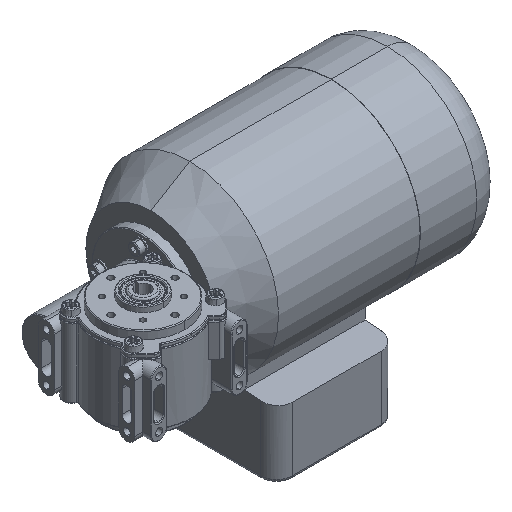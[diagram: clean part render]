
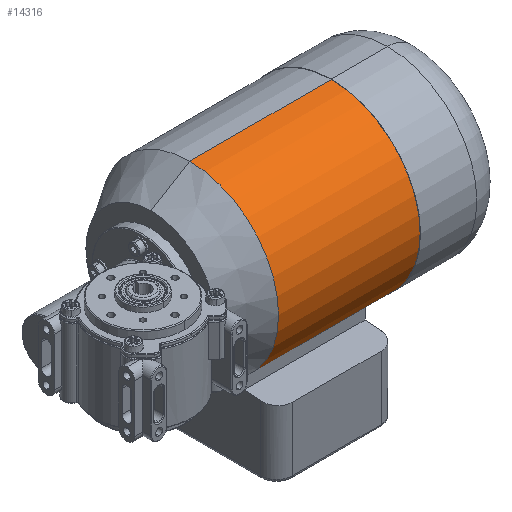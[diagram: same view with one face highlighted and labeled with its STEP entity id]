
A CAD part, isometric view. The second image highlights one B-rep face of the part: STEP entity #14316.
In plain terms, the highlighted cylindrical face has radius 55.25 mm (diameter 110.5 mm), a partial arc.
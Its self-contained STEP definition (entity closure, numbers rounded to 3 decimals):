
#313 = ORIENTED_EDGE ( 'NONE', *, *, #22561, .F. ) ;
#1379 = VECTOR ( 'NONE', #6438, 1000. ) ;
#1397 = LINE ( 'NONE', #16530, #3265 ) ;
#1657 = DIRECTION ( 'NONE',  ( 1., 0., 0. ) ) ;
#1877 = CIRCLE ( 'NONE', #22868, 55.25 ) ;
#2091 = CARTESIAN_POINT ( 'NONE',  ( 102.806, 5.807, -45.734 ) ) ;
#2735 = DIRECTION ( 'NONE',  ( 0., 0., 1. ) ) ;
#2875 = CARTESIAN_POINT ( 'NONE',  ( 59.834, 36.807, 0. ) ) ;
#3171 = CYLINDRICAL_SURFACE ( 'NONE', #23418, 55.25 ) ;
#3265 = VECTOR ( 'NONE', #1657, 1000. ) ;
#3300 = DIRECTION ( 'NONE',  ( 1., 0., 0. ) ) ;
#3387 = VERTEX_POINT ( 'NONE', #18193 ) ;
#4442 = CIRCLE ( 'NONE', #6690, 55.25 ) ;
#5117 = CARTESIAN_POINT ( 'NONE',  ( 114.834, 36.807, 0. ) ) ;
#5302 = CARTESIAN_POINT ( 'NONE',  ( -28.166, 36.807, -55.25 ) ) ;
#6011 = CIRCLE ( 'NONE', #25302, 55.25 ) ;
#6387 = CARTESIAN_POINT ( 'NONE',  ( 49.834, 5.807, -45.734 ) ) ;
#6438 = DIRECTION ( 'NONE',  ( 1., 0., 0. ) ) ;
#6690 = AXIS2_PLACEMENT_3D ( 'NONE', #2875, #3300, #2735 ) ;
#6695 = CARTESIAN_POINT ( 'NONE',  ( -25.166, 36.807, -55.25 ) ) ;
#7422 = CARTESIAN_POINT ( 'NONE',  ( -25.166, 36.807, 0. ) ) ;
#7504 = FACE_OUTER_BOUND ( 'NONE', #21943, .T. ) ;
#7775 = DIRECTION ( 'NONE',  ( -1., 0., 0. ) ) ;
#7863 = VERTEX_POINT ( 'NONE', #24753 ) ;
#7869 = EDGE_CURVE ( 'NONE', #10570, #3387, #4442, .T. ) ;
#8318 = CARTESIAN_POINT ( 'NONE',  ( -28.166, 36.807, 55.25 ) ) ;
#8658 = DIRECTION ( 'NONE',  ( -1., 0., 0. ) ) ;
#8672 = VERTEX_POINT ( 'NONE', #8318 ) ;
#9406 = CARTESIAN_POINT ( 'NONE',  ( -25.166, 5.807, -45.734 ) ) ;
#9559 = ORIENTED_EDGE ( 'NONE', *, *, #19063, .T. ) ;
#9695 = ORIENTED_EDGE ( 'NONE', *, *, #27381, .F. ) ;
#10148 = DIRECTION ( 'NONE',  ( 0., 0., 1. ) ) ;
#10496 = ORIENTED_EDGE ( 'NONE', *, *, #25699, .T. ) ;
#10570 = VERTEX_POINT ( 'NONE', #26795 ) ;
#10627 = CARTESIAN_POINT ( 'NONE',  ( 114.834, 36.807, -55.25 ) ) ;
#11251 = ORIENTED_EDGE ( 'NONE', *, *, #25095, .T. ) ;
#11694 = DIRECTION ( 'NONE',  ( 1., 0., 0. ) ) ;
#11981 = CARTESIAN_POINT ( 'NONE',  ( 49.834, 36.807, 0. ) ) ;
#12027 = DIRECTION ( 'NONE',  ( 0., 0., 1. ) ) ;
#12132 = CARTESIAN_POINT ( 'NONE',  ( -28.166, 36.807, 0. ) ) ;
#12380 = VERTEX_POINT ( 'NONE', #9406 ) ;
#12550 = VECTOR ( 'NONE', #22675, 1000. ) ;
#13535 = VERTEX_POINT ( 'NONE', #6387 ) ;
#13676 = DIRECTION ( 'NONE',  ( 0., 0., 1. ) ) ;
#13685 = DIRECTION ( 'NONE',  ( 0., 0., -1. ) ) ;
#14316 = ADVANCED_FACE ( 'NONE', ( #7504 ), #3171, .T. ) ;
#14847 = LINE ( 'NONE', #10627, #1379 ) ;
#15871 = ORIENTED_EDGE ( 'NONE', *, *, #21662, .F. ) ;
#16406 = LINE ( 'NONE', #22818, #12550 ) ;
#16530 = CARTESIAN_POINT ( 'NONE',  ( 114.834, 36.807, 55.25 ) ) ;
#17358 = CIRCLE ( 'NONE', #24578, 55.25 ) ;
#18193 = CARTESIAN_POINT ( 'NONE',  ( 59.834, 36.807, -55.25 ) ) ;
#19063 = EDGE_CURVE ( 'NONE', #27629, #26082, #14847, .T. ) ;
#19644 = EDGE_CURVE ( 'NONE', #7863, #13535, #6011, .T. ) ;
#20412 = VECTOR ( 'NONE', #8658, 1000. ) ;
#21378 = ORIENTED_EDGE ( 'NONE', *, *, #7869, .F. ) ;
#21662 = EDGE_CURVE ( 'NONE', #13535, #12380, #25660, .T. ) ;
#21860 = ORIENTED_EDGE ( 'NONE', *, *, #19644, .F. ) ;
#21943 = EDGE_LOOP ( 'NONE', ( #11251, #9559, #313, #15871, #21860, #10496, #21378, #9695 ) ) ;
#22561 = EDGE_CURVE ( 'NONE', #12380, #26082, #17358, .T. ) ;
#22675 = DIRECTION ( 'NONE',  ( 1., 0., 0. ) ) ;
#22818 = CARTESIAN_POINT ( 'NONE',  ( 114.834, 36.807, -55.25 ) ) ;
#22868 = AXIS2_PLACEMENT_3D ( 'NONE', #12132, #27438, #10148 ) ;
#23418 = AXIS2_PLACEMENT_3D ( 'NONE', #5117, #11694, #13676 ) ;
#24578 = AXIS2_PLACEMENT_3D ( 'NONE', #7422, #24676, #12027 ) ;
#24676 = DIRECTION ( 'NONE',  ( 1., 0., 0. ) ) ;
#24753 = CARTESIAN_POINT ( 'NONE',  ( 49.834, 36.807, -55.25 ) ) ;
#25095 = EDGE_CURVE ( 'NONE', #8672, #27629, #1877, .T. ) ;
#25302 = AXIS2_PLACEMENT_3D ( 'NONE', #11981, #7775, #13685 ) ;
#25660 = LINE ( 'NONE', #2091, #20412 ) ;
#25699 = EDGE_CURVE ( 'NONE', #7863, #3387, #16406, .T. ) ;
#26082 = VERTEX_POINT ( 'NONE', #6695 ) ;
#26795 = CARTESIAN_POINT ( 'NONE',  ( 59.834, 36.807, 55.25 ) ) ;
#27381 = EDGE_CURVE ( 'NONE', #8672, #10570, #1397, .T. ) ;
#27438 = DIRECTION ( 'NONE',  ( 1., 0., 0. ) ) ;
#27629 = VERTEX_POINT ( 'NONE', #5302 ) ;
